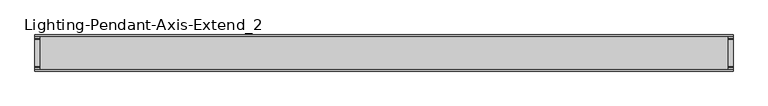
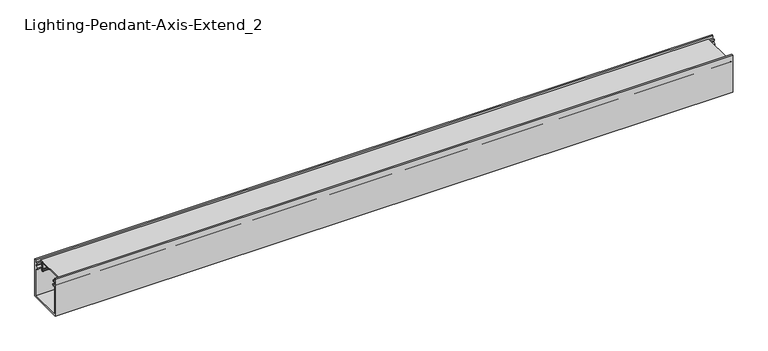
"""IFC4 building model written with IfcOpenShell, lengths in millimetres: light fixture geometry, Lighting-Pendant-Axis-Extend_2 : EX2PD-900-80-35-SO-4."""

from ifc_helpers import new_model, si_unit, point, frame, frame_2d, origin, place, context, project, spatial, polyline, circle_curve, trimmed, segment, composite_curve, outline, extrude, source, transform, mapped, element, save


def lighting_pendant_axis_extend_2_d7a891b9(model_context):
    return source(origin(), model_context, "Body", "SweptSolid", [
        extrude(outline(composite_curve([segment(polyline([(-24.1727262, 676.1479991), (-24.5114181, 669.6853737)]), True, "CONTINUOUS"), segment(trimmed(circle_curve(frame_2d((-27.2542, 666.6865)), 4.064), [point((-24.5114181, 669.6853737))], [point((-25.3818814, 663.0794903))], False, "CARTESIAN"), True, "CONTINUOUS"), segment(trimmed(circle_curve(frame_2d((-22.149344, 663.8683457)), 3.3274001), [point((-25.3818814, 663.0794903))], [point((-24.5665956, 661.5817575))], True, "CARTESIAN"), True, "CONTINUOUS"), segment(trimmed(circle_curve(frame_2d((-17.1303177, 668.6160708)), 10.2362001), [point((-24.5665956, 661.5817575))], [point((-23.2119066, 660.3823555))], True, "CARTESIAN"), True, "CONTINUOUS"), segment(trimmed(circle_curve(frame_2d((-23.7023573, 659.7183462)), 0.8255), [point((-23.2119066, 660.3823555))], [point((-24.192808, 659.0543369))], False, "CARTESIAN"), True, "CONTINUOUS"), segment(trimmed(circle_curve(frame_2d((-17.1303169, 668.6160717)), 11.8872013), [point((-24.192808, 659.0543369))], [point((-25.7659952, 660.4471908))], False, "CARTESIAN"), True, "CONTINUOUS"), segment(trimmed(circle_curve(frame_2d((-22.149344, 663.8683457)), 4.9784001), [point((-25.7659952, 660.4471908))], [point((-27.1108807, 664.27776))], False, "CARTESIAN"), True, "CONTINUOUS"), segment(trimmed(circle_curve(frame_2d((-27.2542, 666.6865)), 2.413), [point((-27.1108807, 664.27776))], [point((-25.4753941, 668.3169658))], True, "CARTESIAN"), True, "CONTINUOUS"), segment(trimmed(circle_curve(frame_2d((-23.6029669, 670.0332456)), 2.54), [point((-25.4753941, 668.3169658))], [point((-26.1394859, 670.1661789))], False, "CARTESIAN"), True, "CONTINUOUS"), segment(polyline([(-26.1394859, 670.1661789), (-25.825992, 676.1479991), (-28.829, 676.1479991), (-28.829, 678.053), (28.829, 678.053), (28.829, 676.1479991), (25.825992, 676.1479991), (26.1394859, 670.1661789)]), True, "CONTINUOUS"), segment(trimmed(circle_curve(frame_2d((23.6029669, 670.0332456)), 2.54), [point((26.1394859, 670.1661789))], [point((25.4753941, 668.3169658))], False, "CARTESIAN"), True, "CONTINUOUS"), segment(trimmed(circle_curve(frame_2d((27.2542, 666.6865)), 2.413), [point((25.4753941, 668.3169658))], [point((27.1108807, 664.27776))], True, "CARTESIAN"), True, "CONTINUOUS"), segment(trimmed(circle_curve(frame_2d((22.149344, 663.8683457)), 4.9784001), [point((27.1108807, 664.27776))], [point((25.7659952, 660.4471908))], False, "CARTESIAN"), True, "CONTINUOUS"), segment(trimmed(circle_curve(frame_2d((17.1303169, 668.6160717)), 11.8872013), [point((25.7659952, 660.4471908))], [point((24.192808, 659.0543369))], False, "CARTESIAN"), True, "CONTINUOUS"), segment(trimmed(circle_curve(frame_2d((23.7023573, 659.7183462)), 0.8255), [point((24.192808, 659.0543369))], [point((23.2119066, 660.3823555))], False, "CARTESIAN"), True, "CONTINUOUS"), segment(trimmed(circle_curve(frame_2d((17.1303177, 668.6160708)), 10.2362001), [point((23.2119066, 660.3823555))], [point((24.5665956, 661.5817575))], True, "CARTESIAN"), True, "CONTINUOUS"), segment(trimmed(circle_curve(frame_2d((22.149344, 663.8683457)), 3.3274001), [point((24.5665956, 661.5817575))], [point((25.3818814, 663.0794903))], True, "CARTESIAN"), True, "CONTINUOUS"), segment(trimmed(circle_curve(frame_2d((27.2542, 666.6865)), 4.064), [point((25.3818814, 663.0794903))], [point((24.5114181, 669.6853737))], False, "CARTESIAN"), True, "CONTINUOUS"), segment(polyline([(24.5114181, 669.6853737), (24.1727262, 676.1479991), (-24.1727262, 676.1479991)]), True, "CONTINUOUS")], self_intersect=False)), frame((-609.6, 0.0, 0.0), z_axis=(1.0, 0.0, 0.0), x_axis=(0.0, 1.0, 0.0)), (0.0, 0.0, 1.0), 1219.2),
        extrude(outline(composite_curve([segment(polyline([(-29.972, 666.1277), (-29.972, 611.632), (29.972, 611.632), (29.972, 666.1277), (28.1325797, 666.1277)]), True, "CONTINUOUS"), segment(trimmed(circle_curve(frame_2d((26.6262297, 666.1277)), 1.5063501), [point((28.1325797, 666.1277))], [point((25.8730546, 664.8231626))], False, "CARTESIAN"), True, "CONTINUOUS"), segment(trimmed(circle_curve(frame_2d((27.0642121, 666.8863079)), 2.382315), [point((25.8730546, 664.8231626))], [point((24.6896516, 667.0783682))], False, "CARTESIAN"), True, "CONTINUOUS"), segment(polyline([(24.6896516, 667.0783682), (28.067, 669.9123), (28.067, 668.1597), (29.972, 668.1597), (29.972, 674.6875), (28.067, 674.6875), (28.067, 673.1635), (26.416, 673.2500252), (26.416, 675.9575), (29.972, 675.9575), (29.972, 681.0375), (32.004, 681.0375), (32.004, 609.6), (-32.004, 609.6), (-32.004, 681.0375), (-29.972, 681.0375), (-29.972, 675.9575), (-26.416, 675.9575), (-26.416, 673.2500252), (-28.067, 673.1635), (-28.067, 674.6875), (-29.972, 674.6875), (-29.972, 668.1597), (-28.067, 668.1597), (-28.067, 669.9123), (-24.6896516, 667.0783682)]), True, "CONTINUOUS"), segment(trimmed(circle_curve(frame_2d((-27.0642121, 666.8863079)), 2.382315), [point((-24.6896516, 667.0783682))], [point((-25.8730546, 664.8231626))], False, "CARTESIAN"), True, "CONTINUOUS"), segment(trimmed(circle_curve(frame_2d((-26.6262297, 666.1277)), 1.5063501), [point((-25.8730546, 664.8231626))], [point((-28.1325797, 666.1277))], False, "CARTESIAN"), True, "CONTINUOUS"), segment(polyline([(-28.1325797, 666.1277), (-29.972, 666.1277)]), True, "CONTINUOUS")], self_intersect=False)), frame((-618.7567, 0.0, 0.0), z_axis=(1.0, 0.0, 0.0), x_axis=(0.0, 1.0, 0.0)), (0.0, 0.0, 1.0), 1237.5134),
    ])


if __name__ == "__main__":
    model = new_model("IFC4")
    model_context = context("Model", 3, world=origin())
    ifc_project = project(units=[si_unit("LENGTHUNIT", "METRE", prefix="MILLI")], contexts=[model_context])
    site = spatial("IfcSite", under=ifc_project)
    building = spatial("IfcBuilding", under=site)
    placement = place(None, origin())
    lighting_pendant_axis_extend_2_shape = lighting_pendant_axis_extend_2_d7a891b9(model_context)
    element("IfcLightFixture", 1, ObjectType="Lighting-Pendant-Axis-Extend_2 : EX2PD-900-80-35-SO-4", at=placement, inside=building, context=model_context, shape_type="MappedRepresentation", body=[
        mapped(lighting_pendant_axis_extend_2_shape, transform((0.0, 0.0, 0.0), x_axis=(1.0, 0.0, 0.0), y_axis=(0.0, 1.0, 0.0), z_axis=(0.0, 0.0, 1.0))),
    ])
    save(model, "model.ifc")
